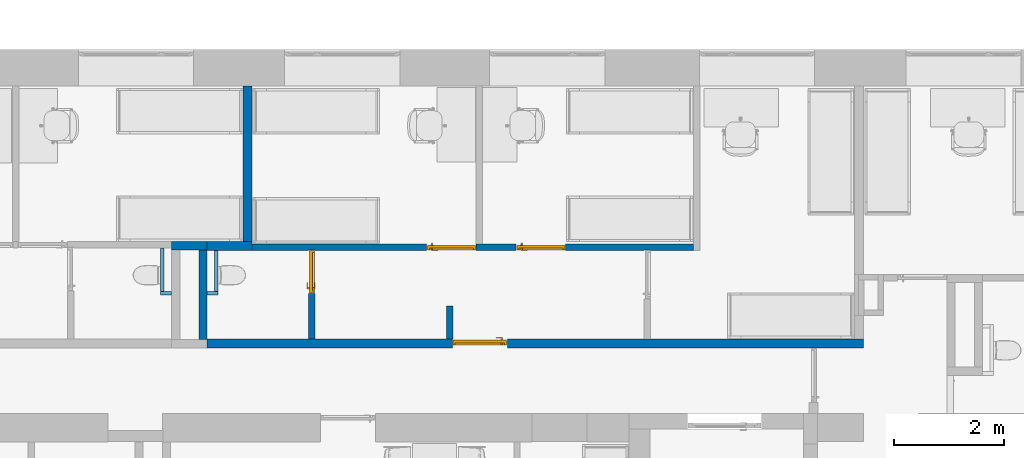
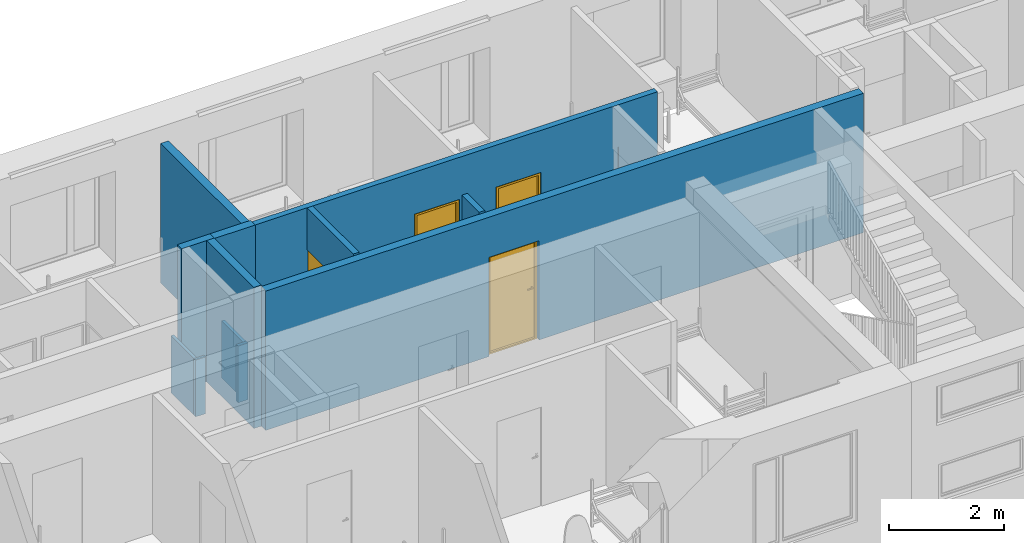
# One storey, part 10 of 48: 12 walls, 4 doors, 7 openings.
"""IFC2X3 building model written with IfcOpenShell, lengths in millimetres."""

from ifc_helpers import new_model, entity, si_unit, converted_unit, derived_unit, direction, frame, frame_2d, origin, place, context, subcontext, project, spatial, rectangle, extrude, faceted_brep, source, transform, mapped, material, material_list, layer, layer_set, layer_usage, type_object, type_shapes, element, fill, save


model = new_model("IFC2X3")

# Units and contexts
model_context = context("Model", 3, precision=0.01, world=origin(), true_north=direction((6.12303176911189e-17, 1.0)))
body_context = subcontext(model_context, "Body", "Model", "MODEL_VIEW")
ifc_project = project(units=[si_unit("LENGTHUNIT", "METRE", prefix="MILLI"), si_unit("AREAUNIT", "SQUARE_METRE"), si_unit("VOLUMEUNIT", "CUBIC_METRE"), converted_unit("PLANEANGLEUNIT", "DEGREE", entity("IfcRatioMeasure", 0.0174532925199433), si_unit("PLANEANGLEUNIT", "RADIAN"), dimensions=[0, 0, 0, 0, 0, 0, 0]), si_unit("MASSUNIT", "GRAM", prefix="KILO"), derived_unit("MASSDENSITYUNIT", [(si_unit("MASSUNIT", "GRAM", prefix="KILO"), 1), (si_unit("LENGTHUNIT", "METRE"), -3)]), si_unit("TIMEUNIT", "SECOND"), si_unit("FREQUENCYUNIT", "HERTZ"), si_unit("THERMODYNAMICTEMPERATUREUNIT", "DEGREE_CELSIUS"), derived_unit("THERMALTRANSMITTANCEUNIT", [(si_unit("MASSUNIT", "GRAM", prefix="KILO"), 1), (si_unit("THERMODYNAMICTEMPERATUREUNIT", "KELVIN"), -1), (si_unit("TIMEUNIT", "SECOND"), -3)]), derived_unit("VOLUMETRICFLOWRATEUNIT", [(si_unit("LENGTHUNIT", "METRE"), 3), (si_unit("TIMEUNIT", "SECOND"), -1)]), si_unit("ELECTRICCURRENTUNIT", "AMPERE"), si_unit("ELECTRICVOLTAGEUNIT", "VOLT"), si_unit("POWERUNIT", "WATT"), si_unit("FORCEUNIT", "NEWTON", prefix="KILO"), si_unit("ILLUMINANCEUNIT", "LUX"), si_unit("LUMINOUSFLUXUNIT", "LUMEN"), si_unit("LUMINOUSINTENSITYUNIT", "CANDELA"), derived_unit("USERDEFINED", [(si_unit("MASSUNIT", "GRAM", prefix="KILO"), -1), (si_unit("LENGTHUNIT", "METRE"), -2), (si_unit("TIMEUNIT", "SECOND"), 3), (si_unit("LUMINOUSFLUXUNIT", "LUMEN"), 1)]), derived_unit("LINEARVELOCITYUNIT", [(si_unit("LENGTHUNIT", "METRE"), 1), (si_unit("TIMEUNIT", "SECOND"), -1)]), si_unit("PRESSUREUNIT", "PASCAL"), derived_unit("USERDEFINED", [(si_unit("LENGTHUNIT", "METRE"), -2), (si_unit("MASSUNIT", "GRAM", prefix="KILO"), 1), (si_unit("TIMEUNIT", "SECOND"), -2)]), derived_unit("LINEARFORCEUNIT", [(si_unit("MASSUNIT", "GRAM", prefix="KILO"), 1), (si_unit("LENGTHUNIT", "METRE"), 1), (si_unit("TIMEUNIT", "SECOND"), -2), (si_unit("LENGTHUNIT", "METRE"), -1)]), derived_unit("PLANARFORCEUNIT", [(si_unit("MASSUNIT", "GRAM", prefix="KILO"), 1), (si_unit("LENGTHUNIT", "METRE"), 1), (si_unit("TIMEUNIT", "SECOND"), -2), (si_unit("LENGTHUNIT", "METRE"), -2)])], contexts=[model_context])

# Site, building, storey
site_placement = place(None, origin())
site = spatial("IfcSite", under=ifc_project, at=site_placement, Name="Default", CompositionType="ELEMENT")
building_placement = place(site_placement, origin())
building = spatial("IfcBuilding", under=site, at=building_placement, Name="SMA ARH", CompositionType="ELEMENT")
storey_placement = place(building_placement, frame((0.0, 0.0, 3300.0)))
storey = spatial("IfcBuildingStorey", under=building, at=storey_placement, Name="2 Korrus", CompositionType="ELEMENT", Elevation=3299.99999999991)

# Walls
ifc_material_1 = material(Name="EST. Müüritis. Väikeplokk. Kergkruusplokk")
ifc_layer_1 = layer(ifc_material_1, 150.0)
ifc_layer_set_1 = layer_set([ifc_layer_1], Name="Basic Wall:SS-02_ 150mm šahtide vahesein")
ifc_layer_usage_1 = layer_usage(ifc_layer_set_1, "AXIS2", "POSITIVE", -75.0)
wall_type_1 = type_object("IfcWallType", Name="Basic Wall:SS-02_ 150mm šahtide vahesein", PredefinedType="STANDARD", material=ifc_layer_set_1)
wall_1_placement = place(storey_placement, frame((22087.2884818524, 9582.0, 0.0)))
element("IfcWallStandardCase", 1, at=wall_1_placement, inside=storey, type_object=wall_type_1, material=ifc_layer_usage_1, Name="Basic Wall:SS-02_ 150mm šahtide vahesein", ObjectType="Basic Wall:SS-02_ 150mm šahtide vahesein", context=body_context, shape_type="SweptSolid", body=[
    extrude(rectangle(XDim=650.000000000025, YDim=150.000000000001, at=frame_2d((325.000000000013, 4.68958205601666e-13), x_axis=(-1.0, 0.0))), origin(), (0.0, 0.0, 1.0), 2989.99999999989),
])
ifc_layer_usage_2 = layer_usage(ifc_layer_set_1, "AXIS2", "POSITIVE", -75.0)
wall_2_placement = place(storey_placement, frame((22662.2884818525, 9507.0, 0.0), z_axis=(0.0, 0.0, 1.0), x_axis=(0.0, -1.0, 0.0)))
element("IfcWallStandardCase", 2, at=wall_2_placement, inside=storey, type_object=wall_type_1, material=ifc_layer_usage_2, Name="Basic Wall:SS-02_ 150mm šahtide vahesein", ObjectType="Basic Wall:SS-02_ 150mm šahtide vahesein", context=body_context, shape_type="SweptSolid", body=[
    extrude(rectangle(XDim=1637.00000000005, YDim=150.000000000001, at=frame_2d((818.500000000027, 3.69482222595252e-13), x_axis=(-1.0, 0.0))), origin(), (0.0, 0.0, 1.0), 2989.99999999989),
])

# Wall, openings, door
ifc_material_2 = material(Name="EST. Ehitusplaat. Kipsplaat")
ifc_layer_2 = layer(ifc_material_2, 12.5)
ifc_layer_3 = layer(ifc_material_2, 12.5)
ifc_material_3 = material(Name="EST. Soojustus. Mineraalvill. Default")
ifc_layer_4 = layer(ifc_material_3, 50.0)
ifc_layer_5 = layer(ifc_material_2, 12.5)
ifc_layer_6 = layer(ifc_material_3, 50.0)
ifc_layer_7 = layer(ifc_material_2, 12.5)
ifc_layer_8 = layer(ifc_material_2, 12.5)
ifc_layer_set_2 = layer_set([ifc_layer_2, ifc_layer_3, ifc_layer_4, ifc_layer_5, ifc_layer_6, ifc_layer_7, ifc_layer_8], Name="Basic Wall:SS-04_Kips, 50+50 mm metallkarkass 2")
ifc_layer_usage_3 = layer_usage(ifc_layer_set_2, "AXIS2", "NEGATIVE", 81.25)
wall_type_2 = type_object("IfcWallType", Name="Basic Wall:SS-04_Kips, 50+50 mm metallkarkass 2", PredefinedType="STANDARD", material=ifc_layer_set_2)
wall_3_placement = place(storey_placement, frame((22737.2884818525, 7801.25000000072, 0.0)))
wall_3 = element("IfcWallStandardCase", 3, at=wall_3_placement, inside=storey, type_object=wall_type_2, material=ifc_layer_usage_3, Name="Basic Wall:SS-04_Kips, 50+50 mm metallkarkass 2", ObjectType="Basic Wall:SS-04_Kips, 50+50 mm metallkarkass 2", context=body_context, shape_type="SweptSolid", body=[
    extrude(rectangle(XDim=11969.4615181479, YDim=162.5, at=frame_2d((5984.73075907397, 1.4210854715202e-14), x_axis=(-1.0, 0.0))), origin(), (0.0, 0.0, 1.0), 2949.99999999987),
])
opening_1_placement = place(wall_3_placement, origin())
element("IfcOpeningElement", 4, at=opening_1_placement, cuts=wall_3, Name="Basic Wall:SS-04_Kips, 50+50 mm metallkarkass 2", ObjectType="Opening", context=body_context, shape_type="SweptSolid", body=[
    extrude(rectangle(XDim=2099.99999999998, YDim=162.500000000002, at=frame_2d((-2.16715534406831e-12, 0.0), x_axis=(0.0, 1.0))), frame((11055.2115181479, -1081.25, 1050.0), z_axis=(0.0, 1.0, 0.0), x_axis=(-1.0, 0.0, 0.0)), (0.0, 0.0, 1.0), 999.999999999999),
])
opening_2_placement = place(wall_3_placement, frame((4473.50000000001, -81.2500000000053, 0.0)))
opening_2 = element("IfcOpeningElement", 5, at=opening_2_placement, cuts=wall_3, Name="SMA_D01, 1-poolne:SU-P-04 - 1000x2100 EI-30:1", ObjectType="Opening", context=body_context, shape_type="SweptSolid", body=[
    extrude(rectangle(XDim=2099.99999999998, YDim=1000.0, at=frame_2d((1049.99999999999, 500.0), x_axis=(1.0, 0.0))), frame((0.0, 0.0, 0.0), z_axis=(0.0, 1.0, 0.0), x_axis=(0.0, 0.0, 1.0)), (0.0, 0.0, 1.0), 162.5),
])
ifc_material_4 = material(Name="EST. Metall. Alumiinium. Värvitud. RAL7023 (Concrete grey)")
ifc_material_5 = material(Name="<Unnamed>")
ifc_material_6 = material(Name="EST. Klaas. 3x. Default")
ifc_material_list_1 = material_list([ifc_material_4, ifc_material_4, ifc_material_4, ifc_material_5, ifc_material_6, ifc_material_5, ifc_material_5])
door_style_1 = type_object("IfcDoorStyle", Name="SMA_D01, 1-poolne:SU-P-04 - 1000x2100 EI-30", ConstructionType="NOTDEFINED", OperationType="SINGLE_SWING_LEFT", ParameterTakesPrecedence=False, Sizeable=False, material=ifc_material_list_1)
shared_shape_1 = source(origin(), body_context, "Body", "Brep", [
    faceted_brep([(890.0, 52.5000000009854, 1112.5), (795.0, 52.5000000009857, 1112.5), (795.0, 47.5000000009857, 1112.5), (915.0, 47.5000000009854, 1112.5), (915.0, 90.5000000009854, 1112.5), (890.0, 90.5000000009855, 1112.5), (890.0, 52.5000000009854, 1087.5), (890.0, 90.5000000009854, 1087.5), (915.0, 90.5000000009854, 1087.5), (915.0, 47.5000000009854, 1087.5), (795.0, 47.5000000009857, 1087.5), (795.0, 52.5000000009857, 1087.5)], [[[0, 1, 2, 3, 4, 5]], [[6, 7, 8, 9, 10, 11]], [[5, 7, 6, 0]], [[4, 8, 7, 5]], [[3, 9, 8, 4]], [[2, 10, 9, 3]], [[1, 11, 10, 2]], [[0, 6, 11, 1]]]),
    faceted_brep([(877.500000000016, 90.5000000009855, 1137.5), (927.500000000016, 90.5000000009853, 1137.5), (927.500000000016, 92.5000000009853, 1137.5), (877.500000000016, 92.5000000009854, 1137.5), (877.500000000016, 90.5000000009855, 1017.5), (877.500000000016, 92.5000000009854, 1017.5), (927.500000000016, 92.5000000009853, 1017.5), (927.500000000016, 90.5000000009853, 1017.5)], [[[0, 1, 2, 3]], [[4, 5, 6, 7]], [[3, 5, 4, 0]], [[2, 6, 5, 3]], [[1, 7, 6, 2]], [[0, 4, 7, 1]]]),
    faceted_brep([(890.0, 182.500000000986, 1112.5), (890.0, 144.500000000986, 1112.5), (915.0, 144.500000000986, 1112.5), (915.0, 187.500000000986, 1112.5), (795.0, 187.500000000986, 1112.5), (795.0, 182.500000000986, 1112.5), (890.0, 182.500000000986, 1087.5), (795.0, 182.500000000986, 1087.5), (795.0, 187.500000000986, 1087.5), (915.0, 187.500000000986, 1087.5), (915.0, 144.500000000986, 1087.5), (890.0, 144.500000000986, 1087.5)], [[[0, 1, 2, 3, 4, 5]], [[6, 7, 8, 9, 10, 11]], [[1, 0, 6, 11]], [[2, 1, 11, 10]], [[3, 2, 10, 9]], [[4, 3, 9, 8]], [[5, 4, 8, 7]], [[0, 5, 7, 6]]]),
    faceted_brep([(877.500000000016, 144.500000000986, 1137.5), (877.500000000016, 142.500000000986, 1137.5), (927.500000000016, 142.500000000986, 1137.5), (927.500000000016, 144.500000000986, 1137.5), (877.500000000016, 144.500000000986, 1017.5), (927.500000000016, 144.500000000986, 1017.5), (927.500000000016, 142.500000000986, 1017.5), (877.500000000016, 142.500000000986, 1017.5)], [[[0, 1, 2, 3]], [[4, 5, 6, 7]], [[1, 0, 4, 7]], [[2, 1, 7, 6]], [[3, 2, 6, 5]], [[0, 3, 5, 4]]]),
    faceted_brep([(50.0, 52.5000000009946, 30.0), (50.0, 92.5000000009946, 30.0), (50.0, 92.5000000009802, 20.0), (50.0, 92.5000000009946, 0.0), (50.0, 52.5000000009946, 0.0), (950.0, 52.5000000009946, 30.0), (950.0, 52.5000000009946, 0.0), (950.0, 92.5000000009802, 0.0), (950.0, 92.5000000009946, 20.0), (950.0, 92.5000000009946, 30.0), (35.0, 92.5000000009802, 0.0), (35.0, 142.500000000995, 0.0), (965.0, 142.500000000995, 0.0), (965.0, 92.5000000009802, 0.0), (35.0, 142.500000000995, 20.0), (35.0, 92.5000000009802, 20.0), (965.0, 142.500000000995, 20.0), (965.0, 92.5000000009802, 20.0)], [[[0, 1, 2, 3, 4]], [[5, 6, 7, 8, 9]], [[4, 6, 5, 0]], [[3, 10, 11, 12, 13, 7, 6, 4]], [[9, 8, 2, 1]], [[0, 5, 9, 1]], [[14, 11, 10, 15]], [[16, 17, 13, 12]], [[15, 2, 8, 17, 16, 14]], [[10, 3, 2, 15]], [[14, 16, 12, 11]], [[17, 8, 7, 13]]]),
    faceted_brep([(10.0, 52.5000000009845, 0.0), (10.0, 142.500000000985, 0.0), (35.0, 142.500000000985, 0.0), (35.0, 92.5000000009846, 0.0), (50.0, 92.5000000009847, 0.0), (50.0, 52.5000000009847, 0.0), (50.0, 52.5000000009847, 2050.0), (950.0, 52.5000000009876, 2050.0), (950.0, 52.5000000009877, 0.0), (990.0, 52.5000000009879, 0.0), (990.0, 52.5000000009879, 2090.0), (10.0, 52.5000000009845, 2090.0), (50.0, 92.5000000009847, 2050.0), (35.0, 92.5000000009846, 2065.0), (965.0, 92.5000000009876, 2065.0), (965.0, 92.5000000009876, 0.0), (950.0, 92.5000000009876, 0.0), (950.0, 92.5000000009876, 2050.0), (35.0, 142.500000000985, 2065.0), (10.0, 142.500000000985, 2090.0), (990.0, 142.500000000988, 2090.0), (990.0, 142.500000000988, 0.0), (965.0, 142.500000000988, 0.0), (965.0, 142.500000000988, 2065.0)], [[[0, 1, 2, 3, 4, 5]], [[5, 6, 7, 8, 9, 10, 11, 0]], [[4, 12, 6, 5]], [[3, 13, 14, 15, 16, 17, 12, 4]], [[2, 18, 13, 3]], [[1, 19, 20, 21, 22, 23, 18, 2]], [[0, 11, 19, 1]], [[9, 21, 20, 10]], [[8, 16, 15, 22, 21, 9]], [[7, 17, 16, 8]], [[14, 23, 22, 15]], [[6, 12, 17, 7]], [[13, 18, 23, 14]], [[10, 20, 19, 11]]]),
    faceted_brep([(965.0, 92.5000000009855, 2065.0), (35.0, 92.5000000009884, 2065.0), (35.0, 92.5000000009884, 20.0), (965.0, 92.5000000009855, 20.0), (965.0, 142.500000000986, 2065.0), (965.0, 142.500000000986, 20.0), (35.0, 142.500000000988, 20.0), (35.0, 142.500000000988, 2065.0)], [[[0, 1, 2, 3]], [[4, 5, 6, 7]], [[3, 5, 4, 0]], [[2, 6, 5, 3]], [[1, 7, 6, 2]], [[0, 4, 7, 1]]]),
])
type_shapes(door_style_1, [shared_shape_1])
door_1_placement = place(opening_2_placement, origin())
door_1 = element("IfcDoor", 6, at=door_1_placement, inside=storey, type_object=door_style_1, material=ifc_material_4, Name="SMA_D01, 1-poolne:SU-P-04 - 1000x2100 EI-30", ObjectType="SMA_D01, 1-poolne:SU-P-04 - 1000x2100 EI-30", OverallHeight=2099.99999999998, OverallWidth=999.999999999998, context=body_context, shape_type="MappedRepresentation", body=[
    mapped(shared_shape_1, transform((0.0, 0.0, 0.0), scale=1.0)),
])
fill(opening_2, door_1)

# Walls
ifc_layer_usage_4 = layer_usage(ifc_layer_set_2, "AXIS2", "NEGATIVE", 81.25)
wall_4_placement = place(storey_placement, frame((23472.5000000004, 12500.0, 0.0), z_axis=(0.0, 0.0, 1.0), x_axis=(0.0, -1.0, 0.0)))
element("IfcWallStandardCase", 7, at=wall_4_placement, inside=storey, type_object=wall_type_2, material=ifc_layer_usage_4, Name="Basic Wall:SS-04_Kips, 50+50 mm metallkarkass 2", ObjectType="Basic Wall:SS-04_Kips, 50+50 mm metallkarkass 2", context=body_context, shape_type="SweptSolid", body=[
    extrude(rectangle(XDim=2842.9999999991, YDim=162.499999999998, at=frame_2d((1421.49999999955, -2.34479102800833e-13), x_axis=(-1.0, 0.0))), origin(), (0.0, 0.0, 1.0), 2949.99999999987),
])
ifc_layer_usage_5 = layer_usage(ifc_layer_set_2, "AXIS2", "POSITIVE", -81.25)
wall_5_placement = place(storey_placement, frame((23553.7500000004, 9575.75000000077, 0.0), z_axis=(0.0, 0.0, 1.0), x_axis=(-1.0, 0.0, 0.0)))
element("IfcWallStandardCase", 8, at=wall_5_placement, inside=storey, type_object=wall_type_2, material=ifc_layer_usage_5, Name="Basic Wall:SS-04_Kips, 50+50 mm metallkarkass 2", ObjectType="Basic Wall:SS-04_Kips, 50+50 mm metallkarkass 2", context=body_context, shape_type="SweptSolid", body=[
    extrude(rectangle(XDim=816.461518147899, YDim=162.5, at=frame_2d((408.230759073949, -2.20268248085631e-13), x_axis=(-1.0, 0.0))), origin(), (0.0, 0.0, 1.0), 2989.99999999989),
])

# Wall, openings, doors
ifc_layer_9 = layer(ifc_material_2, 12.5)
ifc_layer_10 = layer(ifc_material_2, 12.5)
ifc_layer_11 = layer(ifc_material_3, 66.0)
ifc_layer_12 = layer(ifc_material_2, 12.5)
ifc_layer_13 = layer(ifc_material_2, 12.5)
ifc_layer_set_3 = layer_set([ifc_layer_9, ifc_layer_10, ifc_layer_11, ifc_layer_12, ifc_layer_13], Name="Basic Wall:SS-05_Kips, 66mm metallkarkass")
ifc_layer_usage_6 = layer_usage(ifc_layer_set_3, "AXIS2", "POSITIVE", -58.0)
wall_type_3 = type_object("IfcWallType", Name="Basic Wall:SS-05_Kips, 66mm metallkarkass", PredefinedType="STANDARD", material=ifc_layer_set_3)
wall_6_placement = place(storey_placement, frame((31609.0, 9552.5000000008, 0.0), z_axis=(0.0, 0.0, 1.0), x_axis=(-1.0, 0.0, 0.0)))
wall_6 = element("IfcWallStandardCase", 9, at=wall_6_placement, inside=storey, type_object=wall_type_3, material=ifc_layer_usage_6, Name="Basic Wall:SS-05_Kips, 66mm metallkarkass", ObjectType="Basic Wall:SS-05_Kips, 66mm metallkarkass", context=body_context, shape_type="SweptSolid", body=[
    extrude(rectangle(XDim=8136.50000000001, YDim=116.0, at=frame_2d((4068.25, -1.06581410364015e-14), x_axis=(-1.0, 0.0))), origin(), (0.0, 0.0, 1.0), 2989.99999999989),
])
opening_3_placement = place(wall_6_placement, origin())
element("IfcOpeningElement", 10, at=opening_3_placement, cuts=wall_6, Name="Basic Wall:SS-05_Kips, 66mm metallkarkass", ObjectType="Opening", context=body_context, shape_type="SweptSolid", body=[
    extrude(rectangle(XDim=2099.99999999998, YDim=116.0, at=frame_2d((-4.33075797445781e-12, 0.0), x_axis=(0.0, 1.0))), frame((842.416457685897, 45.5000000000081, 1050.0), z_axis=(0.0, 1.0, 0.0), x_axis=(1.0, 0.0, 0.0)), (0.0, 0.0, 1.0), 900.0),
])
opening_4_placement = place(wall_6_placement, origin())
element("IfcOpeningElement", 11, at=opening_4_placement, cuts=wall_6, Name="Basic Wall:SS-05_Kips, 66mm metallkarkass", ObjectType="Opening", context=body_context, shape_type="SweptSolid", body=[
    extrude(rectangle(XDim=2099.99999999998, YDim=116.0, at=frame_2d((0.0, 0.0), x_axis=(0.0, 1.0))), frame((6963.71151814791, 45.5000000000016, 1050.0), z_axis=(0.0, 1.0, 0.0), x_axis=(1.0, 0.0, 0.0)), (0.0, 0.0, 1.0), 800.0),
])
opening_5_placement = place(wall_6_placement, frame((4867.49999999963, 58.0, 0.0)))
opening_5 = element("IfcOpeningElement", 12, at=opening_5_placement, cuts=wall_6, Name="SMA_D01, 1-poolne:SU-P-05 - 900x2100 TUBA:1", ObjectType="Opening", context=body_context, shape_type="SweptSolid", body=[
    extrude(rectangle(XDim=2099.99999999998, YDim=900.0, at=frame_2d((1049.99999999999, 450.0), x_axis=(1.0, 0.0))), frame((0.0, 0.0, 0.0), z_axis=(0.0, -1.0, 0.0), x_axis=(0.0, 0.0, 1.0)), (0.0, 0.0, 1.0), 116.0),
])
opening_6_placement = place(wall_6_placement, frame((3235.0, 58.0, 0.0)))
opening_6 = element("IfcOpeningElement", 13, at=opening_6_placement, cuts=wall_6, Name="SMA_D01, 1-poolne:SU-P-05 - 900x2100 TUBA:1", ObjectType="Opening", context=body_context, shape_type="SweptSolid", body=[
    extrude(rectangle(XDim=2099.99999999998, YDim=900.0, at=frame_2d((1049.99999999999, 450.0), x_axis=(1.0, 0.0))), frame((0.0, 0.0, 0.0), z_axis=(0.0, -1.0, 0.0), x_axis=(0.0, 0.0, 1.0)), (0.0, 0.0, 1.0), 116.0),
])
ifc_material_list_2 = material_list([ifc_material_5, ifc_material_6, ifc_material_5, ifc_material_4, ifc_material_4, ifc_material_4, ifc_material_5])
door_style_2 = type_object("IfcDoorStyle", Name="SMA_D01, 1-poolne:SU-P-05 - 900x2100 TUBA", ConstructionType="NOTDEFINED", OperationType="SINGLE_SWING_RIGHT", ParameterTakesPrecedence=False, Sizeable=False, material=ifc_material_list_2)
shared_shape_2 = source(origin(), body_context, "Body", "Brep", [
    faceted_brep([(110.0, 6.0, 1112.5), (110.0, 44.0, 1112.5), (85.0, 44.0, 1112.5), (85.0, 1.0, 1112.5), (205.0, 1.0, 1112.5), (205.0, 6.0, 1112.5), (110.0, 6.0, 1087.5), (205.0, 6.0, 1087.5), (205.0, 1.0, 1087.5), (85.0, 1.0, 1087.5), (85.0, 44.0, 1087.5), (110.0, 44.0, 1087.5)], [[[0, 1, 2, 3, 4, 5]], [[6, 7, 8, 9, 10, 11]], [[1, 0, 6, 11]], [[2, 1, 11, 10]], [[3, 2, 10, 9]], [[4, 3, 9, 8]], [[5, 4, 8, 7]], [[0, 5, 7, 6]]]),
    faceted_brep([(122.5, 44.0, 1137.5), (122.5, 46.0, 1137.5), (72.5000000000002, 46.0, 1137.5), (72.5000000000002, 44.0, 1137.5), (122.5, 44.0, 1017.5), (72.5000000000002, 44.0, 1017.5), (72.5000000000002, 46.0, 1017.5), (122.5, 46.0, 1017.5)], [[[0, 1, 2, 3]], [[4, 5, 6, 7]], [[1, 0, 4, 7]], [[2, 1, 7, 6]], [[3, 2, 6, 5]], [[0, 3, 5, 4]]]),
    faceted_brep([(110.0, 136.0, 1112.5), (205.0, 136.0, 1112.5), (205.0, 141.0, 1112.5), (85.0, 141.0, 1112.5), (85.0, 98.0, 1112.5), (110.0, 98.0, 1112.5), (110.0, 136.0, 1087.5), (110.0, 98.0, 1087.5), (85.0, 98.0, 1087.5), (85.0, 141.0, 1087.5), (205.0, 141.0, 1087.5), (205.0, 136.0, 1087.5)], [[[0, 1, 2, 3, 4, 5]], [[6, 7, 8, 9, 10, 11]], [[5, 7, 6, 0]], [[4, 8, 7, 5]], [[3, 9, 8, 4]], [[2, 10, 9, 3]], [[1, 11, 10, 2]], [[0, 6, 11, 1]]]),
    faceted_brep([(122.5, 98.0, 1137.5), (72.5000000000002, 98.0, 1137.5), (72.5000000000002, 96.0, 1137.5), (122.5, 96.0, 1137.5), (122.5, 98.0, 1017.5), (122.5, 96.0, 1017.5), (72.5000000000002, 96.0, 1017.5), (72.5000000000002, 98.0, 1017.5)], [[[0, 1, 2, 3]], [[4, 5, 6, 7]], [[3, 5, 4, 0]], [[2, 6, 5, 3]], [[1, 7, 6, 2]], [[0, 4, 7, 1]]]),
    faceted_brep([(850.0, 6.0, 30.0), (850.0, 6.0, 0.0), (850.0, 46.0, 0.0), (850.0, 46.0, 20.0), (850.0, 46.0, 30.0), (50.0, 6.0, 30.0), (50.0, 46.0, 30.0), (50.0, 46.0, 20.0), (50.0, 46.0, 0.0), (50.0, 6.0, 0.0), (35.0, 46.0, 0.0), (35.0, 96.0, 0.0), (865.0, 96.0, 0.0), (865.0, 46.0, 0.0), (865.0, 96.0, 20.0), (865.0, 46.0, 20.0), (35.0, 96.0, 20.0), (35.0, 46.0, 20.0)], [[[0, 1, 2, 3, 4]], [[5, 6, 7, 8, 9]], [[1, 0, 5, 9]], [[2, 1, 9, 8, 10, 11, 12, 13]], [[6, 4, 3, 7]], [[0, 4, 6, 5]], [[14, 15, 13, 12]], [[16, 11, 10, 17]], [[15, 14, 16, 17, 7, 3]], [[13, 15, 3, 2]], [[14, 12, 11, 16]], [[17, 10, 8, 7]]]),
    faceted_brep([(890.0, 6.0, 0.0), (850.0, 6.0, 0.0), (850.0, 46.0, 0.0), (865.0, 46.0, 0.0), (865.0, 96.0, 0.0), (890.0, 96.0, 0.0), (890.0, 6.0, 2090.0), (10.0, 6.0, 2090.0), (10.0, 6.0, 0.0), (50.0, 6.0, 0.0), (50.0, 6.0, 2050.0), (850.0, 6.0, 2050.0), (850.0, 46.0, 2050.0), (50.0, 46.0, 2050.0), (50.0, 46.0, 0.0), (35.0, 46.0, 0.0), (35.0, 46.0, 2065.0), (865.0, 46.0, 2065.0), (865.0, 96.0, 2065.0), (35.0, 96.0, 2065.0), (35.0, 96.0, 0.0), (10.0, 96.0, 0.0), (10.0, 96.0, 2090.0), (890.0, 96.0, 2090.0)], [[[0, 1, 2, 3, 4, 5]], [[1, 0, 6, 7, 8, 9, 10, 11]], [[2, 1, 11, 12]], [[3, 2, 12, 13, 14, 15, 16, 17]], [[4, 3, 17, 18]], [[5, 4, 18, 19, 20, 21, 22, 23]], [[0, 5, 23, 6]], [[8, 7, 22, 21]], [[9, 8, 21, 20, 15, 14]], [[10, 9, 14, 13]], [[16, 15, 20, 19]], [[11, 10, 13, 12]], [[17, 16, 19, 18]], [[7, 6, 23, 22]]]),
    faceted_brep([(35.0, 46.0, 2065.0), (35.0, 46.0, 20.0), (865.0, 46.0, 20.0), (865.0, 46.0, 2065.0), (35.0, 96.0, 2065.0), (865.0, 96.0, 2065.0), (865.0, 96.0, 20.0), (35.0, 96.0, 20.0)], [[[0, 1, 2, 3]], [[4, 5, 6, 7]], [[1, 0, 4, 7]], [[2, 1, 7, 6]], [[3, 2, 6, 5]], [[0, 3, 5, 4]]]),
])
type_shapes(door_style_2, [shared_shape_2])
door_2_placement = place(opening_5_placement, frame((0.0, 0.0, 0.0), z_axis=(0.0, 0.0, 1.0), x_axis=(-1.0, 0.0, 0.0)))
door_2 = element("IfcDoor", 14, at=door_2_placement, inside=storey, type_object=door_style_2, material=ifc_material_4, Name="SMA_D01, 1-poolne:SU-P-05 - 900x2100 TUBA", ObjectType="SMA_D01, 1-poolne:SU-P-05 - 900x2100 TUBA", OverallHeight=2099.99999999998, OverallWidth=899.999999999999, context=body_context, shape_type="MappedRepresentation", body=[
    mapped(shared_shape_2, transform((0.0, 0.0, 0.0), scale=1.0)),
])
fill(opening_5, door_2)
door_3_placement = place(opening_6_placement, frame((0.0, 0.0, 0.0), z_axis=(0.0, 0.0, 1.0), x_axis=(-1.0, 0.0, 0.0)))
door_3 = element("IfcDoor", 15, at=door_3_placement, inside=storey, type_object=door_style_2, material=ifc_material_4, Name="SMA_D01, 1-poolne:SU-P-05 - 900x2100 TUBA", ObjectType="SMA_D01, 1-poolne:SU-P-05 - 900x2100 TUBA", OverallHeight=2099.99999999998, OverallWidth=899.999999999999, context=body_context, shape_type="MappedRepresentation", body=[
    mapped(shared_shape_2, transform((0.0, 0.0, 0.0), scale=1.0)),
])
fill(opening_6, door_3)

# Wall, opening, door
ifc_layer_usage_7 = layer_usage(ifc_layer_set_3, "AXIS2", "POSITIVE", -58.0)
wall_7_placement = place(storey_placement, frame((24645.2884818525, 7882.50000000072, 0.0), z_axis=(0.0, 0.0, 1.0), x_axis=(0.0, 1.0, 0.0)))
wall_7 = element("IfcWallStandardCase", 16, at=wall_7_placement, inside=storey, type_object=wall_type_3, material=ifc_layer_usage_7, Name="Basic Wall:SS-05_Kips, 66mm metallkarkass", ObjectType="Basic Wall:SS-05_Kips, 66mm metallkarkass", context=body_context, shape_type="SweptSolid", body=[
    extrude(rectangle(XDim=1612.00000000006, YDim=116.0, at=frame_2d((806.000000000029, -1.77635683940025e-14), x_axis=(-1.0, 0.0))), origin(), (0.0, 0.0, 1.0), 2989.99999999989),
])
opening_7_placement = place(wall_7_placement, frame((824.500000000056, -58.0, 0.0)))
opening_7 = element("IfcOpeningElement", 17, at=opening_7_placement, cuts=wall_7, Name="SMA_D01, 1-poolne:SU-P-06 - 800x2100 DUŠŠ:1", ObjectType="Opening", context=body_context, shape_type="SweptSolid", body=[
    extrude(rectangle(XDim=2099.99999999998, YDim=800.0, at=frame_2d((1049.99999999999, 400.0), x_axis=(1.0, 0.0))), frame((0.0, 0.0, 0.0), z_axis=(0.0, 1.0, 0.0), x_axis=(0.0, 0.0, 1.0)), (0.0, 0.0, 1.0), 116.0),
])
ifc_material_list_3 = material_list([ifc_material_4, ifc_material_6, ifc_material_5, ifc_material_5, ifc_material_4, ifc_material_5, ifc_material_4])
door_style_3 = type_object("IfcDoorStyle", Name="SMA_D01, 1-poolne:SU-P-06 - 800x2100 DUŠŠ", ConstructionType="NOTDEFINED", OperationType="NOTDEFINED", ParameterTakesPrecedence=False, Sizeable=False, material=ifc_material_list_3)
shared_shape_3 = source(origin(), body_context, "Body", "Brep", [
    faceted_brep([(110.0, 6.0, 1112.5), (110.0, 44.0, 1112.5), (85.0, 44.0, 1112.5), (85.0, 1.0, 1112.5), (205.0, 1.0, 1112.5), (205.0, 6.0, 1112.5), (110.0, 6.0, 1087.5), (205.0, 6.0, 1087.5), (205.0, 1.0, 1087.5), (85.0, 1.0, 1087.5), (85.0, 44.0, 1087.5), (110.0, 44.0, 1087.5)], [[[0, 1, 2, 3, 4, 5]], [[6, 7, 8, 9, 10, 11]], [[1, 0, 6, 11]], [[2, 1, 11, 10]], [[3, 2, 10, 9]], [[4, 3, 9, 8]], [[5, 4, 8, 7]], [[0, 5, 7, 6]]]),
    faceted_brep([(122.5, 44.0, 1137.5), (122.5, 46.0, 1137.5), (72.4999999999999, 46.0, 1137.5), (72.4999999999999, 44.0, 1137.5), (122.5, 44.0, 1017.5), (72.4999999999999, 44.0, 1017.5), (72.4999999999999, 46.0, 1017.5), (122.5, 46.0, 1017.5)], [[[0, 1, 2, 3]], [[4, 5, 6, 7]], [[1, 0, 4, 7]], [[2, 1, 7, 6]], [[3, 2, 6, 5]], [[0, 3, 5, 4]]]),
    faceted_brep([(110.0, 136.0, 1112.5), (205.0, 136.0, 1112.5), (205.0, 141.0, 1112.5), (85.0, 141.0, 1112.5), (85.0, 98.0, 1112.5), (110.0, 98.0, 1112.5), (110.0, 136.0, 1087.5), (110.0, 98.0, 1087.5), (85.0, 98.0, 1087.5), (85.0, 141.0, 1087.5), (205.0, 141.0, 1087.5), (205.0, 136.0, 1087.5)], [[[0, 1, 2, 3, 4, 5]], [[6, 7, 8, 9, 10, 11]], [[5, 7, 6, 0]], [[4, 8, 7, 5]], [[3, 9, 8, 4]], [[2, 10, 9, 3]], [[1, 11, 10, 2]], [[0, 6, 11, 1]]]),
    faceted_brep([(122.5, 98.0, 1137.5), (72.4999999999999, 98.0, 1137.5), (72.4999999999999, 96.0, 1137.5), (122.5, 96.0, 1137.5), (122.5, 98.0, 1017.5), (122.5, 96.0, 1017.5), (72.4999999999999, 96.0, 1017.5), (72.4999999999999, 98.0, 1017.5)], [[[0, 1, 2, 3]], [[4, 5, 6, 7]], [[3, 5, 4, 0]], [[2, 6, 5, 3]], [[1, 7, 6, 2]], [[0, 4, 7, 1]]]),
    faceted_brep([(750.0, 6.0, 30.0), (750.0, 6.0, 0.0), (750.0, 46.0, 0.0), (750.0, 46.0, 20.0), (750.0, 46.0, 30.0), (50.0, 6.0, 30.0), (50.0, 46.0, 30.0), (50.0, 46.0, 20.0), (50.0, 46.0, 0.0), (50.0, 6.0, 0.0), (35.0, 46.0, 0.0), (35.0, 96.0, 0.0), (765.0, 96.0, 0.0), (765.0, 46.0, 0.0), (765.0, 96.0, 20.0), (765.0, 46.0, 20.0), (35.0, 96.0, 20.0), (35.0, 46.0, 20.0)], [[[0, 1, 2, 3, 4]], [[5, 6, 7, 8, 9]], [[1, 0, 5, 9]], [[2, 1, 9, 8, 10, 11, 12, 13]], [[6, 4, 3, 7]], [[0, 4, 6, 5]], [[14, 15, 13, 12]], [[16, 11, 10, 17]], [[15, 14, 16, 17, 7, 3]], [[13, 15, 3, 2]], [[14, 12, 11, 16]], [[17, 10, 8, 7]]]),
    faceted_brep([(790.0, 6.0, 0.0), (750.0, 6.0, 0.0), (750.0, 46.0, 0.0), (765.0, 46.0, 0.0), (765.0, 96.0, 0.0), (790.0, 96.0, 0.0), (790.0, 6.0, 2090.0), (10.0, 6.0, 2090.0), (10.0, 6.0, 0.0), (50.0, 6.0, 0.0), (50.0, 6.0, 2050.0), (750.0, 6.0, 2050.0), (750.0, 46.0, 2050.0), (50.0, 46.0, 2050.0), (50.0, 46.0, 0.0), (35.0, 46.0, 0.0), (35.0, 46.0, 2065.0), (765.0, 46.0, 2065.0), (765.0, 96.0, 2065.0), (35.0, 96.0, 2065.0), (35.0, 96.0, 0.0), (10.0, 96.0, 0.0), (10.0, 96.0, 2090.0), (790.0, 96.0, 2090.0)], [[[0, 1, 2, 3, 4, 5]], [[1, 0, 6, 7, 8, 9, 10, 11]], [[2, 1, 11, 12]], [[3, 2, 12, 13, 14, 15, 16, 17]], [[4, 3, 17, 18]], [[5, 4, 18, 19, 20, 21, 22, 23]], [[0, 5, 23, 6]], [[8, 7, 22, 21]], [[9, 8, 21, 20, 15, 14]], [[10, 9, 14, 13]], [[16, 15, 20, 19]], [[11, 10, 13, 12]], [[17, 16, 19, 18]], [[7, 6, 23, 22]]]),
    faceted_brep([(35.0, 46.0, 2065.0), (35.0, 46.0, 20.0), (765.0, 46.0, 20.0), (765.0, 46.0, 2065.0), (35.0, 96.0, 2065.0), (765.0, 96.0, 2065.0), (765.0, 96.0, 20.0), (35.0, 96.0, 20.0)], [[[0, 1, 2, 3]], [[4, 5, 6, 7]], [[1, 0, 4, 7]], [[2, 1, 7, 6]], [[3, 2, 6, 5]], [[0, 3, 5, 4]]]),
])
type_shapes(door_style_3, [shared_shape_3])
door_4_placement = place(opening_7_placement, origin())
door_4 = element("IfcDoor", 18, at=door_4_placement, inside=storey, type_object=door_style_3, material=ifc_material_4, Name="SMA_D01, 1-poolne:SU-P-06 - 800x2100 DUŠŠ", ObjectType="SMA_D01, 1-poolne:SU-P-06 - 800x2100 DUŠŠ", OverallHeight=2099.99999999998, OverallWidth=800.0, context=body_context, shape_type="MappedRepresentation", body=[
    mapped(shared_shape_3, transform((0.0, 0.0, 0.0), scale=1.0)),
])
fill(opening_7, door_4)

# Walls
ifc_layer_usage_8 = layer_usage(ifc_layer_set_3, "AXIS2", "POSITIVE", -58.0)
wall_8_placement = place(storey_placement, frame((27161.2884818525, 8482.50000000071, 0.0), z_axis=(0.0, 0.0, 1.0), x_axis=(0.0, -1.0, 0.0)))
element("IfcWallStandardCase", 19, at=wall_8_placement, inside=storey, type_object=wall_type_3, material=ifc_layer_usage_8, Name="Basic Wall:SS-05_Kips, 66mm metallkarkass", ObjectType="Basic Wall:SS-05_Kips, 66mm metallkarkass", context=body_context, shape_type="SweptSolid", body=[
    extrude(rectangle(XDim=599.999999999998, YDim=116.0, at=frame_2d((299.999999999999, 0.0), x_axis=(-1.0, 0.0))), origin(), (0.0, 0.0, 1.0), 2989.99999999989),
])
ifc_material_7 = material(Name="EST. Põrand. Plaatkate")
ifc_layer_14 = layer(ifc_material_7, 10.0)
ifc_layer_15 = layer(ifc_material_2, 12.5)
ifc_material_8 = material(Name="EST. Õhkvahe. Roov. Kipsplaadi alusroov. Vertikaalne")
ifc_layer_16 = layer(ifc_material_8, 42.0)
ifc_layer_set_4 = layer_set([ifc_layer_14, ifc_layer_15, ifc_layer_16], Name="Basic Wall:SS-04 - loputuskast")
ifc_layer_usage_9 = layer_usage(ifc_layer_set_4, "AXIS2", "POSITIVE", -32.25)
wall_type_4 = type_object("IfcWallType", Name="Basic Wall:SS-04 - loputuskast", PredefinedType="STANDARD", material=ifc_layer_set_4)
wall_9_placement = place(storey_placement, frame((21919.5384818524, 9541.0, 0.0), z_axis=(0.0, 0.0, 1.0), x_axis=(0.0, -1.0, 0.0)))
element("IfcWallStandardCase", 20, at=wall_9_placement, inside=storey, type_object=wall_type_4, material=ifc_layer_usage_9, Name="Basic Wall:SS-04 - loputuskast", ObjectType="Basic Wall:SS-04 - loputuskast", context=body_context, shape_type="SweptSolid", body=[
    extrude(rectangle(XDim=794.00000000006, YDim=64.5000000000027, at=frame_2d((397.00000000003, -1.19726450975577e-12), x_axis=(-1.0, 0.0))), origin(), (0.0, 0.0, 1.0), 1200.0),
])
ifc_layer_usage_10 = layer_usage(ifc_layer_set_4, "AXIS2", "POSITIVE", -32.25)
wall_10_placement = place(storey_placement, frame((21887.2884818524, 8714.75000000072, 0.0)))
element("IfcWallStandardCase", 21, at=wall_10_placement, inside=storey, type_object=wall_type_4, material=ifc_layer_usage_10, Name="Basic Wall:SS-04 - loputuskast", ObjectType="Basic Wall:SS-04 - loputuskast", context=body_context, shape_type="SweptSolid", body=[
    extrude(rectangle(XDim=200.000000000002, YDim=64.5000000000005, at=frame_2d((100.000000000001, -2.94875235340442e-13), x_axis=(-1.0, 0.0))), origin(), (0.0, 0.0, 1.0), 1200.0),
])
ifc_layer_usage_11 = layer_usage(ifc_layer_set_4, "AXIS2", "NEGATIVE", 32.25)
wall_11_placement = place(storey_placement, frame((22905.0384818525, 9494.50000000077, 0.0), z_axis=(0.0, 0.0, 1.0), x_axis=(0.0, -1.0, 0.0)))
element("IfcWallStandardCase", 22, at=wall_11_placement, inside=storey, type_object=wall_type_4, material=ifc_layer_usage_11, Name="Basic Wall:SS-04 - loputuskast", ObjectType="Basic Wall:SS-04 - loputuskast", context=body_context, shape_type="SweptSolid", body=[
    extrude(rectangle(XDim=747.500000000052, YDim=64.5000000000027, at=frame_2d((373.750000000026, -7.8159700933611e-13), x_axis=(-1.0, 0.0))), origin(), (0.0, 0.0, 1.0), 1200.0),
])
ifc_layer_usage_12 = layer_usage(ifc_layer_set_4, "AXIS2", "NEGATIVE", 32.25)
wall_12_placement = place(storey_placement, frame((22937.2884818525, 8714.75000000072, 0.0), z_axis=(0.0, 0.0, 1.0), x_axis=(-1.0, 0.0, 0.0)))
element("IfcWallStandardCase", 23, at=wall_12_placement, inside=storey, type_object=wall_type_4, material=ifc_layer_usage_12, Name="Basic Wall:SS-04 - loputuskast", ObjectType="Basic Wall:SS-04 - loputuskast", context=body_context, shape_type="SweptSolid", body=[
    extrude(rectangle(XDim=200.000000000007, YDim=64.5000000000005, at=frame_2d((100.000000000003, 2.94875235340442e-13), x_axis=(-1.0, 0.0))), origin(), (0.0, 0.0, 1.0), 1200.0),
])

save(model, "model.ifc")
